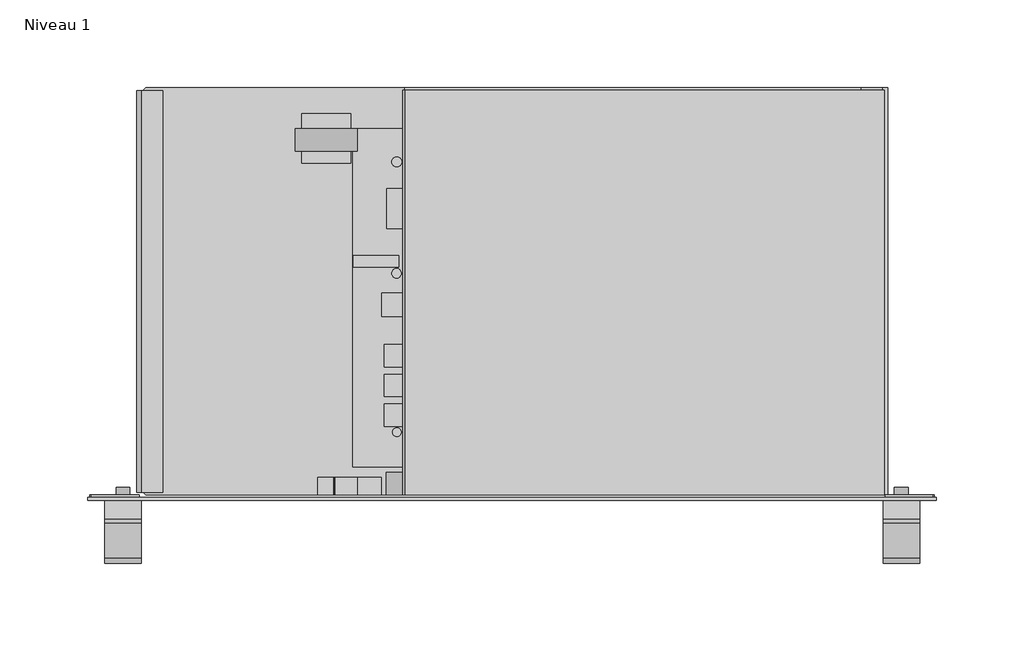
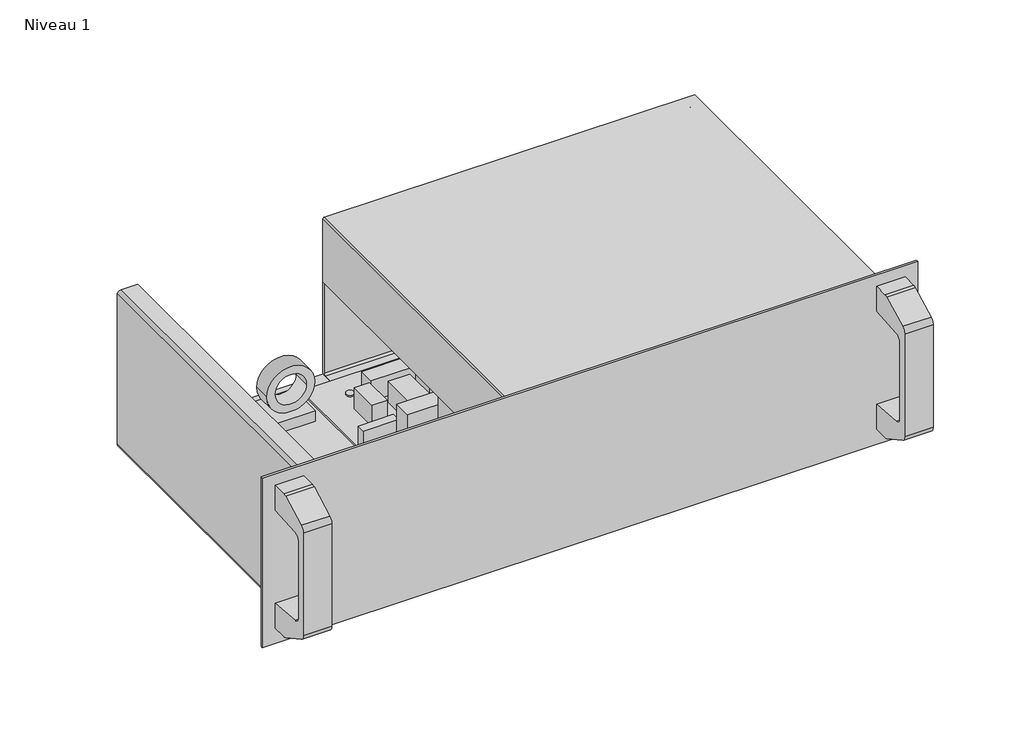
# One storey: 1 proxy.
"""IFC4 building model written with IfcOpenShell, lengths in millimetres."""

import ifcopenshell
import ifcopenshell.guid

model = None  # the IFC model being written
_history = None  # IfcOwnerHistory: only IFC2X3 demands one
_inside = {}  # id of a spatial element -> (the spatial element, [elements in it])
_under = {}  # id of a project, library or spatial element -> (it, [spatial elements below it])
_declared = {}  # id of a project -> (the project, [libraries it declares])
_typed = {}  # id of a type object -> (the type object, [elements of that type])
_made_of = {}  # id of a material, layer set ... -> (it, [elements and type objects made of it])


def new_model(schema):
    """Start an empty IFC model of exactly this schema.

    Asked for "IFC4X3", IfcOpenShell would pick the latest addendum, in which some entities
    have other attributes; the version numbers below select the first issue.
    IFC2X3 requires an IfcOwnerHistory on every rooted entity: one is made here for all.
    """
    global model, _history
    if schema == "IFC4X3":
        model = ifcopenshell.file(schema_version=(4, 3, 0, 0))
    else:
        model = ifcopenshell.file(schema=schema)
    _inside.clear()
    _under.clear()
    _declared.clear()
    _typed.clear()
    _made_of.clear()
    _history = None
    if model.schema == "IFC2X3":
        org = make("IfcOrganization", Name="unknown")
        user = make(
            "IfcPersonAndOrganization",
            ThePerson=make("IfcPerson", FamilyName="unknown"),
            TheOrganization=org,
        )
        app = make(
            "IfcApplication",
            ApplicationDeveloper=org,
            Version="unknown",
            ApplicationFullName="unknown",
            ApplicationIdentifier="unknown",
        )
        _history = make(
            "IfcOwnerHistory",
            OwningUser=user,
            OwningApplication=app,
            ChangeAction="ADDED",
            CreationDate=0,
        )
    return model


def make(cls, **values):
    """One entity of the class cls with the attributes given. An attribute that is None is left unset."""
    return model.create_entity(
        cls, **{name: value for name, value in values.items() if value is not None}
    )


def rooted(cls, **values):
    """An entity with a GlobalId (a new one), such as an element, a storey or a relation."""
    return make(cls, GlobalId=ifcopenshell.guid.new(), OwnerHistory=_history, **values)


def si_unit(unit_type, name, prefix=None):
    """IfcSIUnit, for example si_unit("LENGTHUNIT", "METRE", prefix="MILLI")."""
    return make("IfcSIUnit", UnitType=unit_type, Prefix=prefix, Name=name)


def assignment(units):
    """IfcUnitAssignment: the units of a project."""
    return None if units is None else make("IfcUnitAssignment", Units=units)


def point(xyz):
    """IfcCartesianPoint."""
    return None if xyz is None else make("IfcCartesianPoint", Coordinates=xyz)


def direction(xyz):
    """IfcDirection."""
    return None if xyz is None else make("IfcDirection", DirectionRatios=xyz)


def frame(location, z_axis=None, x_axis=None):
    """IfcAxis2Placement3D, a coordinate frame: its origin and axes. An axis left out is left unset."""
    return make(
        "IfcAxis2Placement3D",
        Location=point(location),
        Axis=direction(z_axis),
        RefDirection=direction(x_axis),
    )


def frame_2d(location, x_axis=None):
    """IfcAxis2Placement2D, a coordinate frame in the plane: its origin and x axis."""
    return make(
        "IfcAxis2Placement2D", Location=point(location), RefDirection=direction(x_axis)
    )


def origin():
    """The frame at (0, 0, 0) with its axes left unset."""
    return frame((0.0, 0.0, 0.0))


def place(relative_to, where):
    """IfcLocalPlacement: puts the frame where relative to a parent placement (None: the world)."""
    return make(
        "IfcLocalPlacement", PlacementRelTo=relative_to, RelativePlacement=where
    )


def context(
    kind, dimensions, precision=None, world=None, true_north=None, identifier=None
):
    """IfcGeometricRepresentationContext, for example the 3D "Model" context."""
    return make(
        "IfcGeometricRepresentationContext",
        ContextIdentifier=identifier,
        ContextType=kind,
        CoordinateSpaceDimension=dimensions,
        Precision=precision,
        WorldCoordinateSystem=world,
        TrueNorth=true_north,
    )


def project(units=None, contexts=None):
    """IfcProject with its units and contexts."""
    return rooted(
        "IfcProject",
        Name="project",
        RepresentationContexts=contexts,
        UnitsInContext=assignment(units),
    )


def spatial(cls, under=None, at=None, **own):
    """A site, building, storey or space (cls), placed at a placement, below another one or the project."""
    s = rooted(cls, ObjectPlacement=at, **own)
    if under is not None:
        _under.setdefault(under.id(), (under, []))[1].append(s)
    return s


def polyline(points):
    """IfcPolyline through the points."""
    return make("IfcPolyline", Points=[point(p) for p in points])


def circle_curve(where, radius):
    """IfcCircle in the frame where."""
    return make("IfcCircle", Position=where, Radius=radius)


def trimmed(basis, trim1, trim2, sense, master):
    """IfcTrimmedCurve: the piece of a basis curve between two trims."""
    return make(
        "IfcTrimmedCurve",
        BasisCurve=basis,
        Trim1=trim1,
        Trim2=trim2,
        SenseAgreement=sense,
        MasterRepresentation=master,
    )


def segment(curve, same_sense, transition):
    """IfcCompositeCurveSegment."""
    return make(
        "IfcCompositeCurveSegment",
        Transition=transition,
        SameSense=same_sense,
        ParentCurve=curve,
    )


def composite_curve(segments, self_intersect=None):
    """IfcCompositeCurve: segments joined end to end."""
    return make("IfcCompositeCurve", Segments=segments, SelfIntersect=self_intersect)


def outline(outer, holes=None, kind="AREA"):
    """IfcArbitraryClosedProfileDef: a profile drawn as a closed curve; with holes, ...WithVoids."""
    if holes is None:
        return make("IfcArbitraryClosedProfileDef", ProfileType=kind, OuterCurve=outer)
    return make(
        "IfcArbitraryProfileDefWithVoids",
        ProfileType=kind,
        OuterCurve=outer,
        InnerCurves=holes,
    )


def extrude(swept, where, along, depth):
    """IfcExtrudedAreaSolid: the profile swept, set in the frame where, extruded along a direction by depth."""
    return make(
        "IfcExtrudedAreaSolid",
        SweptArea=swept,
        Position=where,
        ExtrudedDirection=direction(along),
        Depth=depth,
    )


def shape(context_of_items, identifier, shape_type, items):
    """IfcShapeRepresentation: the items that make up one representation, for example the "Body"."""
    return make(
        "IfcShapeRepresentation",
        ContextOfItems=context_of_items,
        RepresentationIdentifier=identifier,
        RepresentationType=shape_type,
        Items=items,
    )


def source(mapping_origin, context_of_items, identifier, shape_type, items):
    """IfcRepresentationMap: a shape defined once, which mapped items show again and again."""
    return make(
        "IfcRepresentationMap",
        MappingOrigin=mapping_origin,
        MappedRepresentation=shape(context_of_items, identifier, shape_type, items),
    )


def transform(
    local_origin,
    x_axis=None,
    y_axis=None,
    z_axis=None,
    scale=None,
    scale2=None,
    scale3=None,
    uniform=True,
):
    """IfcCartesianTransformationOperator3D, or its non-uniform kind. x_axis, y_axis, z_axis: its Axis1, 2, 3."""
    if uniform:
        return make(
            "IfcCartesianTransformationOperator3D",
            Axis1=direction(x_axis),
            Axis2=direction(y_axis),
            LocalOrigin=point(local_origin),
            Scale=scale,
            Axis3=direction(z_axis),
        )
    return make(
        "IfcCartesianTransformationOperator3DnonUniform",
        Axis1=direction(x_axis),
        Axis2=direction(y_axis),
        LocalOrigin=point(local_origin),
        Scale=scale,
        Axis3=direction(z_axis),
        Scale2=scale2,
        Scale3=scale3,
    )


def mapped(mapping_source, mapping_target):
    """IfcMappedItem: shows the shape of a source again, moved by a transform."""
    return make(
        "IfcMappedItem", MappingSource=mapping_source, MappingTarget=mapping_target
    )


def made_of(thing, what):
    """Note that an element or type object is made of a material, layer set ...; save() writes the relation."""
    if what is not None:
        _made_of.setdefault(what.id(), (what, []))[1].append(thing)
    return thing


def element(
    cls,
    number,
    at=None,
    inside=None,
    cuts=None,
    type_object=None,
    material=None,
    context=None,
    identifier="Body",
    shape_type=None,
    held_by="IfcProductDefinitionShape",
    body=None,
    shapes=None,
    **own,
):
    """One element of the class cls, such as IfcWall. Its Tag is "e" and its number.

    at: its placement. inside: the storey or other place that contains it. cuts: it is an
    opening in that element (IfcRelVoidsElement). A single representation is given by context,
    identifier, shape_type and body (its items); several are given by shapes. held_by: the class
    of the entity that holds the representations. save() writes the other relations.
    """
    e = rooted(cls, Tag="e%d" % number, ObjectPlacement=at, **own)
    if body is not None:
        shapes = [shape(context, identifier, shape_type, body)]
    if shapes is not None:
        e.Representation = make(held_by, Representations=shapes)
    if inside is not None:
        _inside.setdefault(inside.id(), (inside, []))[1].append(e)
    if cuts is not None:
        rooted(
            "IfcRelVoidsElement", RelatingBuildingElement=cuts, RelatedOpeningElement=e
        )
    if type_object is not None:
        _typed.setdefault(type_object.id(), (type_object, []))[1].append(e)
    return made_of(e, material)


def aggregate(whole, parts):
    """IfcRelAggregates: a whole, such as a stair, and the parts it consists of."""
    return rooted("IfcRelAggregates", RelatingObject=whole, RelatedObjects=parts)


def save(model, path):
    """Write the relations noted so far, then the file.

    IfcRelAggregates (storeys below a building ...), IfcRelContainedInSpatialStructure (elements
    in a storey), IfcRelDefinesByType, IfcRelAssociatesMaterial and IfcRelDeclares: one each for
    every whole, place, type object, material and project.
    """
    for whole, parts in _under.values():
        aggregate(whole, parts)
    for where, things in _inside.values():
        rooted(
            "IfcRelContainedInSpatialStructure",
            RelatedElements=things,
            RelatingStructure=where,
        )
    for kind, things in _typed.values():
        rooted("IfcRelDefinesByType", RelatedObjects=things, RelatingType=kind)
    for what, things in _made_of.values():
        rooted("IfcRelAssociatesMaterial", RelatedObjects=things, RelatingMaterial=what)
    for by, libraries in _declared.values():
        rooted("IfcRelDeclares", RelatingContext=by, RelatedDefinitions=libraries)
    model.write(path)


def electrical_equipment_2903663d(model_context):
    return source(origin(), model_context, "Body", "SweptSolid", [
        extrude(outline(composite_curve([segment(trimmed(circle_curve(frame_2d((69.5120804, -40.3346366)), 17.6593111), [point((69.5120804, -22.6753256))], [point((69.5120804, -57.9939477))], False, "CARTESIAN"), True, "CONTINUOUS"), segment(trimmed(circle_curve(frame_2d((69.5120804, -40.3346366)), 17.6593111), [point((69.5120804, -57.9939477))], [point((69.5120804, -22.6753256))], False, "CARTESIAN"), True, "CONTINUOUS")], self_intersect=False), holes=[composite_curve([segment(trimmed(circle_curve(frame_2d((69.5120804, -40.3346366)), 11.5), [point((69.5120804, -28.8346366))], [point((69.5120804, -51.8346366))], True, "CARTESIAN"), True, "CONTINUOUS"), segment(trimmed(circle_curve(frame_2d((69.5120804, -40.3346366)), 11.5), [point((69.5120804, -51.8346366))], [point((69.5120804, -28.8346366))], True, "CARTESIAN"), True, "CONTINUOUS")], self_intersect=False)]), frame((0.0, -103.5804057, 0.0), z_axis=(0.0, 1.0, 0.0), x_axis=(0.0, 0.0, 1.0)), (0.0, 0.0, 1.0), 12.75),
        extrude(outline(composite_curve([segment(trimmed(circle_curve(frame_2d((85.5561483, -75.5633423)), 1.4726773), [point((85.4575, -74.0939727))], [point((84.4475, -74.5939727))], True, "CARTESIAN"), True, "CONTINUOUS"), segment(polyline([(84.4475, -74.5939727), (84.4475, -87.1739727)]), True, "CONTINUOUS"), segment(trimmed(circle_curve(frame_2d((85.0762624, -87.1739727)), 0.6287624), [point((84.4475, -87.1739727))], [point((85.4575, -87.6739727))], True, "CARTESIAN"), True, "CONTINUOUS"), segment(polyline([(85.4575, -87.6739727), (85.4575, -96.9439727), (43.4175, -96.9439727), (43.4175, -87.6739727), (44.4275, -87.1739727), (44.4275, -74.5939727), (43.4175, -74.0939727), (43.4175, -60.8939727), (85.4575, -60.8939727), (85.4575, -74.0939727)]), True, "CONTINUOUS")], self_intersect=False)), frame((0.0, -103.5804057, 0.0), z_axis=(0.0, 1.0, 0.0), x_axis=(0.0, 0.0, 1.0)), (0.0, 0.0, 1.0), 10.1),
        extrude(outline(composite_curve([segment(trimmed(circle_curve(frame_2d((111.0486852, -207.8805611)), 3.8825564), [point((111.0486852, -211.7631175))], [point((111.0486852, -203.9980047))], False, "CARTESIAN"), True, "CONTINUOUS"), segment(trimmed(circle_curve(frame_2d((111.0486852, -207.8805611)), 3.8825564), [point((111.0486852, -203.9980047))], [point((111.0486852, -211.7631175))], False, "CARTESIAN"), True, "CONTINUOUS")], self_intersect=False)), frame((0.0, -105.0804057, 0.0), z_axis=(0.0, 1.0, 0.0), x_axis=(0.0, 0.0, 1.0)), (0.0, 0.0, 1.0), 5.7),
        extrude(outline(composite_curve([segment(trimmed(circle_curve(frame_2d((111.0073968, 235.1983586)), 3.9056349), [point((111.0073968, 231.2927237))], [point((111.0073968, 239.1039935))], False, "CARTESIAN"), True, "CONTINUOUS"), segment(trimmed(circle_curve(frame_2d((111.0073968, 235.1983586)), 3.9056349), [point((111.0073968, 239.1039935))], [point((111.0073968, 231.2927237))], False, "CARTESIAN"), True, "CONTINUOUS")], self_intersect=False)), frame((0.0, -105.0804057, 0.0), z_axis=(0.0, 1.0, 0.0), x_axis=(0.0, 0.0, 1.0)), (0.0, 0.0, 1.0), 5.7),
        extrude(outline(composite_curve([segment(trimmed(circle_curve(frame_2d((18.5190475, 235.0400975)), 3.8287512), [point((18.5190475, 231.2113463))], [point((18.5190475, 238.8688488))], False, "CARTESIAN"), True, "CONTINUOUS"), segment(trimmed(circle_curve(frame_2d((18.5190475, 235.0400975)), 3.8287512), [point((18.5190475, 238.8688488))], [point((18.5190475, 231.2113463))], False, "CARTESIAN"), True, "CONTINUOUS")], self_intersect=False)), frame((0.0, -105.0804057, 0.0), z_axis=(0.0, 1.0, 0.0), x_axis=(0.0, 0.0, 1.0)), (0.0, 0.0, 1.0), 5.7),
        extrude(outline(composite_curve([segment(trimmed(circle_curve(frame_2d((18.5611817, -207.8813006)), 3.7501449), [point((18.5611817, -211.6314454))], [point((18.5611817, -204.1311557))], False, "CARTESIAN"), True, "CONTINUOUS"), segment(trimmed(circle_curve(frame_2d((18.5611817, -207.8813006)), 3.7501449), [point((18.5611817, -204.1311557))], [point((18.5611817, -211.6314454))], False, "CARTESIAN"), True, "CONTINUOUS")], self_intersect=False)), frame((0.0, -105.0804057, 0.0), z_axis=(0.0, 1.0, 0.0), x_axis=(0.0, 0.0, 1.0)), (0.0, 0.0, 1.0), 5.7),
        extrude(outline(composite_curve([segment(trimmed(circle_curve(frame_2d((-51.9851856, 86.1970682)), 2.8241029), [point((-54.8092885, 86.1970682))], [point((-49.1610827, 86.1970682))], False, "CARTESIAN"), True, "CONTINUOUS"), segment(trimmed(circle_curve(frame_2d((-51.9851856, 86.1970682)), 2.8241029), [point((-49.1610827, 86.1970682))], [point((-54.8092885, 86.1970682))], False, "CARTESIAN"), True, "CONTINUOUS")], self_intersect=False)), frame((0.0, 0.0, 6.0), z_axis=(0.0, 0.0, 1.0), x_axis=(1.0, 0.0, 0.0)), (0.0, 0.0, 1.0), 12.6),
        extrude(outline(composite_curve([segment(trimmed(circle_curve(frame_2d((-52.0963246, 22.7243521)), 2.7385816), [point((-54.8349062, 22.7243521))], [point((-49.357743, 22.7243521))], False, "CARTESIAN"), True, "CONTINUOUS"), segment(trimmed(circle_curve(frame_2d((-52.0963246, 22.7243521)), 2.7385816), [point((-49.357743, 22.7243521))], [point((-54.8349062, 22.7243521))], False, "CARTESIAN"), True, "CONTINUOUS")], self_intersect=False)), frame((0.0, 0.0, 6.0), z_axis=(0.0, 0.0, 1.0), x_axis=(1.0, 0.0, 0.0)), (0.0, 0.0, 1.0), 12.6),
        extrude(outline(composite_curve([segment(trimmed(circle_curve(frame_2d((-51.9263266, -67.7776614)), 2.4983309), [point((-54.4246575, -67.7776614))], [point((-49.4279958, -67.7776614))], False, "CARTESIAN"), True, "CONTINUOUS"), segment(trimmed(circle_curve(frame_2d((-51.9263266, -67.7776614)), 2.4983309), [point((-49.4279958, -67.7776614))], [point((-54.4246575, -67.7776614))], False, "CARTESIAN"), True, "CONTINUOUS")], self_intersect=False)), frame((0.0, 0.0, 6.0), z_axis=(0.0, 0.0, 1.0), x_axis=(1.0, 0.0, 0.0)), (0.0, 0.0, 1.0), 12.6),
        extrude(outline(composite_curve([segment(trimmed(circle_curve(frame_2d((145.3056812, -67.6231412)), 2.72988), [point((142.5758013, -67.6231412))], [point((148.0355612, -67.6231412))], False, "CARTESIAN"), True, "CONTINUOUS"), segment(trimmed(circle_curve(frame_2d((145.3056812, -67.6231412)), 2.72988), [point((148.0355612, -67.6231412))], [point((142.5758013, -67.6231412))], False, "CARTESIAN"), True, "CONTINUOUS")], self_intersect=False)), frame((0.0, 0.0, 6.0), z_axis=(0.0, 0.0, 1.0), x_axis=(1.0, 0.0, 0.0)), (0.0, 0.0, 1.0), 12.6),
        extrude(outline(composite_curve([segment(trimmed(circle_curve(frame_2d((145.3175625, 86.3095784)), 2.7108939), [point((142.6066685, 86.3095784))], [point((148.0284564, 86.3095784))], False, "CARTESIAN"), True, "CONTINUOUS"), segment(trimmed(circle_curve(frame_2d((145.3175625, 86.3095784)), 2.7108939), [point((148.0284564, 86.3095784))], [point((142.6066685, 86.3095784))], False, "CARTESIAN"), True, "CONTINUOUS")], self_intersect=False)), frame((0.0, 0.0, 6.0), z_axis=(0.0, 0.0, 1.0), x_axis=(1.0, 0.0, 0.0)), (0.0, 0.0, 1.0), 12.6),
        extrude(outline(composite_curve([segment(trimmed(circle_curve(frame_2d((85.5561483, -75.5633423)), 1.4726773), [point((85.4575, -74.0939727))], [point((84.4475, -74.5939727))], True, "CARTESIAN"), True, "CONTINUOUS"), segment(polyline([(84.4475, -74.5939727), (84.4475, -87.1739727)]), True, "CONTINUOUS"), segment(trimmed(circle_curve(frame_2d((85.0762624, -87.1739727)), 0.6287624), [point((84.4475, -87.1739727))], [point((85.4575, -87.6739727))], True, "CARTESIAN"), True, "CONTINUOUS"), segment(polyline([(85.4575, -87.6739727), (85.4575, -96.9439727), (43.4175, -96.9439727), (43.4175, -87.6739727), (44.4275, -87.1739727), (44.4275, -74.5939727), (43.4175, -74.0939727), (43.4175, -60.8939727), (85.4575, -60.8939727), (85.4575, -74.0939727)]), True, "CONTINUOUS")], self_intersect=False)), frame((0.0, -103.5804057, 0.0), z_axis=(0.0, 1.0, 0.0), x_axis=(0.0, 0.0, 1.0)), (0.0, 0.0, 1.0), 10.1),
        extrude(outline(polyline([(70.7205579, -37.8212855), (33.897325, -37.8212855), (33.897325, -55.4322057), (-8.0194421, -55.4322057), (-13.4690418, -55.4322057), (-13.4690418, -68.4918057), (-35.4844421, -68.4918057), (-35.4844421, -35.0322057), (-45.4844421, -35.0322057), (-45.4844421, -15.0322057), (70.7205579, -15.0322057), (70.7205579, -37.8212855)])), frame((0.0, 0.0, 17.6), z_axis=(0.0, 0.0, 1.0), x_axis=(1.0, 0.0, 0.0)), (0.0, 0.0, 1.0), 59.1044),
        extrude(outline(polyline([(141.6665579, 90.2073943), (141.6665579, -71.6922057), (41.6965579, -71.6922057), (41.6965579, -41.6922057), (76.6665579, -41.6922057), (76.6665579, 34.4073943), (-9.3334421, 34.4073943), (-9.3334421, 90.2073943), (141.6665579, 90.2073943)])), frame((0.0, 0.0, 61.0), z_axis=(0.0, 0.0, 1.0), x_axis=(1.0, 0.0, 0.0)), (0.0, 0.0, 1.0), 1.1),
        extrude(outline(polyline([(-60.5894421, 11.5677943), (46.5731579, 11.5677943), (46.5731579, -2.0237497), (-60.5894421, -2.0237497), (-60.5894421, 11.5677943)])), frame((0.0, 0.0, 17.6), z_axis=(0.0, 0.0, 1.0), x_axis=(1.0, 0.0, 0.0)), (0.0, 0.0, 1.0), 40.2),
        extrude(outline(polyline([(-21.2703727, -25.5856057), (7.7618273, -25.5856057), (7.7618273, -37.3966057), (-21.2703727, -37.3966057), (-21.2703727, -25.5856057)])), frame((0.0, 0.0, 16.0), z_axis=(0.0, 0.0, 1.0), x_axis=(1.0, 0.0, 0.0)), (0.0, 0.0, 1.0), 17.8),
        extrude(outline(polyline([(-21.2703727, -9.9646057), (7.3880344, -9.9646057), (7.3880344, -22.1300845), (-21.2703727, -22.1300845), (-21.2703727, -9.9646057)])), frame((0.0, 0.0, 16.0), z_axis=(0.0, 0.0, 1.0), x_axis=(1.0, 0.0, 0.0)), (0.0, 0.0, 1.0), 17.8),
        extrude(outline(polyline([(-21.0417727, -71.2294057), (-21.0417727, -42.1972057), (-9.2307727, -42.1972057), (-9.2307727, -71.2294057), (-21.0417727, -71.2294057)])), frame((0.0, 0.0, 16.0), z_axis=(0.0, 0.0, 1.0), x_axis=(1.0, 0.0, 0.0)), (0.0, 0.0, 1.0), 17.8),
        extrude(outline(polyline([(-50.8105727, 32.701795), (-50.8105727, 26.1933546), (-76.8963727, 26.1933546), (-76.8963727, 32.701795), (-50.8105727, 32.701795)])), frame((0.0, 0.0, 16.0), z_axis=(0.0, 0.0, 1.0), x_axis=(1.0, 0.0, 0.0)), (0.0, 0.0, 1.0), 17.8),
        extrude(outline(polyline([(-19.4037421, 66.0706943), (-19.4037421, 35.0706943), (-35.4037421, 35.0706943), (-35.4037421, 66.0706943), (-19.4037421, 66.0706943)])), frame((0.0, 0.0, 16.0), z_axis=(0.0, 0.0, 1.0), x_axis=(1.0, 0.0, 0.0)), (0.0, 0.0, 1.0), 17.8),
        extrude(outline(polyline([(-46.6696421, 70.9795943), (-46.6696421, 48.1195943), (-57.7694421, 48.1195943), (-57.7694421, 70.9795943), (-46.6696421, 70.9795943)])), frame((0.0, 0.0, 16.0), z_axis=(0.0, 0.0, 1.0), x_axis=(1.0, 0.0, 0.0)), (0.0, 0.0, 1.0), 17.8),
        extrude(outline(polyline([(-78.0726421, 113.6425951), (-78.0726421, 85.5525919), (-106.0811387, 85.5525919), (-106.0811387, 113.6425951), (-78.0726421, 113.6425951)])), frame((0.0, 0.0, 6.0), z_axis=(0.0, 0.0, 1.0), x_axis=(1.0, 0.0, 0.0)), (0.0, 0.0, 1.0), 8.094273),
        extrude(outline(composite_curve([segment(polyline([(129.0, 225.5526273), (129.0, -47.4473727)]), True, "CONTINUOUS"), segment(trimmed(circle_curve(frame_2d((128.0, -47.4473727)), 1.0), [point((129.0, -47.4473727))], [point((128.0, -48.4473727))], False, "CARTESIAN"), True, "CONTINUOUS"), segment(polyline([(128.0, -48.4473727), (79.0, -48.4473727), (79.0, -47.4473727), (128.0, -47.4473727), (128.0, 225.5526273), (129.0, 225.5526273)]), True, "CONTINUOUS")], self_intersect=False)), frame((0.0, -103.5804057, 0.0), z_axis=(0.0, 1.0, 0.0), x_axis=(0.0, 0.0, 1.0)), (0.0, 0.0, 1.0), 230.5),
        extrude(outline(composite_curve([segment(trimmed(circle_curve(frame_2d((36.1, 151.0880473)), 17.6593111), [point((36.1, 168.7473583))], [point((36.1, 133.4287362))], False, "CARTESIAN"), True, "CONTINUOUS"), segment(trimmed(circle_curve(frame_2d((36.1, 151.0880473)), 17.6593111), [point((36.1, 133.4287362))], [point((36.1, 168.7473583))], False, "CARTESIAN"), True, "CONTINUOUS")], self_intersect=False), holes=[composite_curve([segment(trimmed(circle_curve(frame_2d((36.1, 151.0880473)), 11.5), [point((36.1, 162.5880473))], [point((36.1, 139.5880473))], True, "CARTESIAN"), True, "CONTINUOUS"), segment(trimmed(circle_curve(frame_2d((36.1, 151.0880473)), 11.5), [point((36.1, 139.5880473))], [point((36.1, 162.5880473))], True, "CARTESIAN"), True, "CONTINUOUS")], self_intersect=False)]), frame((0.0, 39.6966943, 0.0), z_axis=(0.0, 1.0, 0.0), x_axis=(0.0, 0.0, 1.0)), (0.0, 0.0, 1.0), 18.0),
        extrude(outline(composite_curve([segment(trimmed(circle_curve(frame_2d((36.1, 76.9425516)), 17.0), [point((36.1, 93.9425516))], [point((36.1, 59.9425516))], False, "CARTESIAN"), True, "CONTINUOUS"), segment(trimmed(circle_curve(frame_2d((36.1, 76.9425516)), 17.0), [point((36.1, 59.9425516))], [point((36.1, 93.9425516))], False, "CARTESIAN"), True, "CONTINUOUS")], self_intersect=False), holes=[composite_curve([segment(trimmed(circle_curve(frame_2d((36.1, 76.9425516)), 11.5), [point((36.1, 88.4425516))], [point((36.1, 65.4425516))], True, "CARTESIAN"), True, "CONTINUOUS"), segment(trimmed(circle_curve(frame_2d((36.1, 76.9425516)), 11.5), [point((36.1, 65.4425516))], [point((36.1, 88.4425516))], True, "CARTESIAN"), True, "CONTINUOUS")], self_intersect=False)]), frame((0.0, -36.8549363, 0.0), z_axis=(0.0, 1.0, 0.0), x_axis=(0.0, 0.0, 1.0)), (0.0, 0.0, 1.0), 12.75),
        extrude(outline(composite_curve([segment(trimmed(circle_curve(frame_2d((36.1, 36.4625333)), 17.6593111), [point((36.1, 54.1218443))], [point((36.1, 18.8032222))], False, "CARTESIAN"), True, "CONTINUOUS"), segment(trimmed(circle_curve(frame_2d((36.1, 36.4625333)), 17.6593111), [point((36.1, 18.8032222))], [point((36.1, 54.1218443))], False, "CARTESIAN"), True, "CONTINUOUS")], self_intersect=False), holes=[composite_curve([segment(trimmed(circle_curve(frame_2d((36.1, 36.4625333)), 11.5), [point((36.1, 47.9625333))], [point((36.1, 24.9625333))], True, "CARTESIAN"), True, "CONTINUOUS"), segment(trimmed(circle_curve(frame_2d((36.1, 36.4625333)), 11.5), [point((36.1, 24.9625333))], [point((36.1, 47.9625333))], True, "CARTESIAN"), True, "CONTINUOUS")], self_intersect=False)]), frame((0.0, -36.8549363, 0.0), z_axis=(0.0, 1.0, 0.0), x_axis=(0.0, 0.0, 1.0)), (0.0, 0.0, 1.0), 12.75),
        extrude(outline(composite_curve([segment(trimmed(circle_curve(frame_2d((31.5628403, -92.0511196)), 17.6593111), [point((31.5628403, -74.3918086))], [point((31.5628403, -109.7104307))], False, "CARTESIAN"), True, "CONTINUOUS"), segment(trimmed(circle_curve(frame_2d((31.5628403, -92.0511196)), 17.6593111), [point((31.5628403, -109.7104307))], [point((31.5628403, -74.3918086))], False, "CARTESIAN"), True, "CONTINUOUS")], self_intersect=False), holes=[composite_curve([segment(trimmed(circle_curve(frame_2d((31.5628403, -92.0511196)), 11.5), [point((31.5628403, -80.5511196))], [point((31.5628403, -103.5511196))], True, "CARTESIAN"), True, "CONTINUOUS"), segment(trimmed(circle_curve(frame_2d((31.5628403, -92.0511196)), 11.5), [point((31.5628403, -103.5511196))], [point((31.5628403, -80.5511196))], True, "CARTESIAN"), True, "CONTINUOUS")], self_intersect=False)]), frame((0.0, 92.4195943, 0.0), z_axis=(0.0, 1.0, 0.0), x_axis=(0.0, 0.0, 1.0)), (0.0, 0.0, 1.0), 12.75),
        extrude(outline(polyline([(-46.6680154, -64.5077495), (-59.1664421, -64.5077495), (-59.1664421, -51.8036007), (-46.6680154, -51.8036007), (-46.6680154, -64.5077495)])), frame((0.0, 0.0, 17.6), z_axis=(0.0, 0.0, 1.0), x_axis=(1.0, 0.0, 0.0)), (0.0, 0.0, 1.0), 20.35),
        extrude(outline(polyline([(-46.6680154, -17.9712057), (-46.6680154, -30.6712057), (-59.1664421, -30.6712057), (-59.1664421, -17.9712057), (-46.6680154, -17.9712057)])), frame((0.0, 0.0, 17.6), z_axis=(0.0, 0.0, 1.0), x_axis=(1.0, 0.0, 0.0)), (0.0, 0.0, 1.0), 20.35),
        extrude(outline(polyline([(-48.3782372, -34.8622057), (-48.3782372, -47.5622057), (-59.1664421, -47.5622057), (-59.1664421, -34.8622057), (-48.3782372, -34.8622057)])), frame((0.0, 0.0, 17.6), z_axis=(0.0, 0.0, 1.0), x_axis=(1.0, 0.0, 0.0)), (0.0, 0.0, 1.0), 20.35),
        extrude(outline(polyline([(128.7611737, 64.1017943), (128.7611737, 38.0667943), (120.4730775, 38.0667943), (120.4730775, 64.1017943), (128.7611737, 64.1017943)])), frame((0.0, 0.0, 16.0), z_axis=(0.0, 0.0, 1.0), x_axis=(1.0, 0.0, 0.0)), (0.0, 0.0, 1.0), 17.8),
        extrude(outline(polyline([(171.7442273, -87.5616057), (-77.0233727, -87.5616057), (-77.0233727, 104.9957943), (171.7442273, 104.9957943), (171.7442273, -87.5616057)])), frame((0.0, 0.0, 16.0), z_axis=(0.0, 0.0, 1.0), x_axis=(1.0, 0.0, 0.0)), (0.0, 0.0, 1.0), 1.6),
        extrude(outline(polyline([(-44.7646421, 83.9589943), (-11.9224421, 83.9589943), (-11.9224421, 72.0683082), (-44.7646421, 72.0683082), (-44.7646421, 83.9589943)])), frame((0.0, 0.0, 16.0), z_axis=(0.0, 0.0, 1.0), x_axis=(1.0, 0.0, 0.0)), (0.0, 0.0, 1.0), 17.8),
        extrude(outline(polyline([(141.6665579, 90.2073943), (141.6665579, 60.5695943), (-8.3334421, 60.5695943), (-8.3334421, 90.2073943), (141.6665579, 90.2073943)])), frame((0.0, 0.0, 17.6), z_axis=(0.0, 0.0, 1.0), x_axis=(1.0, 0.0, 0.0)), (0.0, 0.0, 1.0), 43.4),
        extrude(outline(polyline([(41.6965579, -71.6922057), (41.6965579, -41.6922057), (76.6665579, -41.6922057), (141.6665579, -41.6922057), (141.6665579, -71.6922057), (41.6965579, -71.6922057)])), frame((0.0, 0.0, 17.6), z_axis=(0.0, 0.0, 1.0), x_axis=(1.0, 0.0, 0.0)), (0.0, 0.0, 1.0), 43.4),
        extrude(outline(composite_curve([segment(trimmed(circle_curve(frame_2d((102.3743586, 50.3664957)), 17.6348629), [point((84.7394956, 50.3664957))], [point((120.0092215, 50.3664957))], False, "CARTESIAN"), True, "CONTINUOUS"), segment(trimmed(circle_curve(frame_2d((102.3743586, 50.3664957)), 17.6348629), [point((120.0092215, 50.3664957))], [point((84.7394956, 50.3664957))], False, "CARTESIAN"), True, "CONTINUOUS")], self_intersect=False)), frame((0.0, 0.0, 17.6), z_axis=(0.0, 0.0, 1.0), x_axis=(1.0, 0.0, 0.0)), (0.0, 0.0, 1.0), 42.0),
        extrude(outline(composite_curve([segment(trimmed(circle_curve(frame_2d((66.596714, 50.2520288)), 17.6348629), [point((48.9618511, 50.2520288))], [point((84.231577, 50.2520288))], False, "CARTESIAN"), True, "CONTINUOUS"), segment(trimmed(circle_curve(frame_2d((66.596714, 50.2520288)), 17.6348629), [point((84.231577, 50.2520288))], [point((48.9618511, 50.2520288))], False, "CARTESIAN"), True, "CONTINUOUS")], self_intersect=False)), frame((0.0, 0.0, 17.6), z_axis=(0.0, 0.0, 1.0), x_axis=(1.0, 0.0, 0.0)), (0.0, 0.0, 1.0), 42.0),
        extrude(outline(composite_curve([segment(polyline([(125.4195943, 120.9021665), (118.4195943, 120.9021665), (113.4195943, 120.9021665), (113.4195943, 122.4021665), (118.4195943, 122.4021665), (125.4195943, 122.4021665)]), True, "CONTINUOUS"), segment(trimmed(circle_curve(frame_2d((125.4195943, 119.4021665)), 3.0), [point((125.4195943, 122.4021665))], [point((128.4195943, 119.4021665))], False, "CARTESIAN"), True, "CONTINUOUS"), segment(polyline([(128.4195943, 119.4021665), (128.4195943, 7.515625)]), True, "CONTINUOUS"), segment(trimmed(circle_curve(frame_2d((125.4195943, 7.515625)), 3.0), [point((128.4195943, 7.515625))], [point((125.4195943, 4.515625))], False, "CARTESIAN"), True, "CONTINUOUS"), segment(polyline([(125.4195943, 4.515625), (-103.5804057, 4.515625), (-103.5804057, 6.0), (125.4195943, 6.0)]), True, "CONTINUOUS"), segment(trimmed(circle_curve(frame_2d((125.4195943, 7.5)), 1.5), [point((125.4195943, 6.0))], [point((126.9195943, 7.5))], True, "CARTESIAN"), True, "CONTINUOUS"), segment(polyline([(126.9195943, 7.5), (126.9195943, 119.4021665)]), True, "CONTINUOUS"), segment(trimmed(circle_curve(frame_2d((125.4195943, 119.4021665)), 1.5), [point((126.9195943, 119.4021665))], [point((125.4195943, 120.9021665))], True, "CARTESIAN"), True, "CONTINUOUS")], self_intersect=False)), frame((-47.5481667, 0.0, 0.0), z_axis=(1.0, 0.0, 0.0), x_axis=(0.0, 1.0, 0.0)), (0.0, 0.0, 1.0), 270.4),
        extrude(outline(polyline([(222.5526273, -103.5804057), (-194.8473727, -103.5804057), (-196.8473727, -101.5804057), (-196.8026476, 126.4643194), (-194.8473727, 128.4195943), (-45.8473727, 128.4195943), (-45.8473727, 125.4195943), (224.5526273, 125.4195943), (224.5526273, -101.5804057), (222.5526273, -103.5804057)])), frame((0.0, 0.0, 4.5), z_axis=(0.0, 0.0, 1.0), x_axis=(1.0, 0.0, 0.0)), (0.0, 0.0, 1.0), 1.5),
        extrude(outline(polyline([(126.5, 253.3526273), (126.5, 226.0526273), (125.2589841, 226.0526273), (6.0, 226.0526273), (6.0, 253.3526273), (6.7747307, 254.1273579), (125.7252693, 254.1273579), (126.5, 253.3526273)])), frame((0.0, -105.0804057, 0.0), z_axis=(0.0, 1.0, 0.0), x_axis=(0.0, 0.0, 1.0)), (0.0, 0.0, 1.0), 1.5),
        extrude(outline(polyline([(126.5, -225.8726895), (125.5, -226.8726421), (7.0, -226.8726421), (6.0, -225.8726895), (6.0, -198.5574135), (126.5, -198.5574135), (126.5, -225.8726895)])), frame((0.0, -105.0804057, 0.0), z_axis=(0.0, 1.0, 0.0), x_axis=(0.0, 0.0, 1.0)), (0.0, 0.0, 1.0), 1.5),
        extrude(outline(composite_curve([segment(polyline([(123.4890082, -185.0726421), (125.0393288, -185.0726421), (125.0393288, -197.2527257)]), True, "CONTINUOUS"), segment(trimmed(circle_curve(frame_2d((122.0270938, -197.2527257)), 3.012235), [point((125.0393288, -197.2527257))], [point((123.1258595, -200.0574135))], False, "CARTESIAN"), True, "CONTINUOUS"), segment(polyline([(123.1258595, -200.0574135), (6.0, -200.0574135)]), True, "CONTINUOUS"), segment(trimmed(circle_curve(frame_2d((6.0, -197.0574135)), 3.0), [point((6.0, -200.0574135))], [point((3.0, -197.0574135))], False, "CARTESIAN"), True, "CONTINUOUS"), segment(polyline([(3.0, -197.0574135), (3.0, -181.6408834), (4.4375, -181.6408834), (4.4375, -197.0574135)]), True, "CONTINUOUS"), segment(trimmed(circle_curve(frame_2d((6.2375, -196.7274135)), 1.83), [point((4.4375, -197.0574135))], [point((6.2375, -198.5574135))], True, "CARTESIAN"), True, "CONTINUOUS"), segment(polyline([(6.2375, -198.5574135), (122.6992653, -198.5574135)]), True, "CONTINUOUS"), segment(trimmed(circle_curve(frame_2d((121.9619849, -197.2201709)), 1.5270233), [point((122.6992653, -198.5574135))], [point((123.4890082, -197.2201709))], True, "CARTESIAN"), True, "CONTINUOUS"), segment(polyline([(123.4890082, -197.2201709), (123.4890082, -185.0726421)]), True, "CONTINUOUS")], self_intersect=False)), frame((0.0, -102.0804057, 0.0), z_axis=(0.0, 1.0, 0.0), x_axis=(0.0, 0.0, 1.0)), (0.0, 0.0, 1.0), 228.9426557),
        extrude(outline(composite_curve([segment(polyline([(124.9375, 212.5526273), (124.9375, 224.5526273)]), True, "CONTINUOUS"), segment(trimmed(circle_curve(frame_2d((123.4104767, 224.5526273)), 1.5270233), [point((124.9375, 224.5526273))], [point((123.6964841, 226.0526273))], True, "CARTESIAN"), True, "CONTINUOUS"), segment(polyline([(123.6964841, 226.0526273), (6.2375, 226.0526273)]), True, "CONTINUOUS"), segment(trimmed(circle_curve(frame_2d((6.2375, 224.2226273)), 1.83), [point((6.2375, 226.0526273))], [point((4.4375, 224.5526273))], True, "CARTESIAN"), True, "CONTINUOUS"), segment(polyline([(4.4375, 224.5526273), (4.4375, 212.5526273), (2.9375, 212.5526273), (2.9375, 224.5526273)]), True, "CONTINUOUS"), segment(trimmed(circle_curve(frame_2d((5.9375, 224.5526273)), 3.0), [point((2.9375, 224.5526273))], [point((5.9375, 227.5526273))], False, "CARTESIAN"), True, "CONTINUOUS"), segment(polyline([(5.9375, 227.5526273), (123.6964841, 227.5526273)]), True, "CONTINUOUS"), segment(trimmed(circle_curve(frame_2d((123.425265, 224.5526273)), 3.012235), [point((123.6964841, 227.5526273))], [point((126.4375, 224.5526273))], False, "CARTESIAN"), True, "CONTINUOUS"), segment(polyline([(126.4375, 224.5526273), (126.4375, 212.5526273), (124.9375, 212.5526273)]), True, "CONTINUOUS")], self_intersect=False)), frame((0.0, -103.5804057, 0.0), z_axis=(0.0, 1.0, 0.0), x_axis=(0.0, 0.0, 1.0)), (0.0, 0.0, 1.0), 232.0),
        extrude(outline(composite_curve([segment(polyline([(-117.331115, 121.6370201), (-106.5804057, 121.6370201), (-106.5804057, 102.1370201), (-131.8561096, 100.3695707)]), True, "CONTINUOUS"), segment(trimmed(circle_curve(frame_2d((-131.5073272, 95.3817505)), 5.0), [point((-131.8561096, 100.3695707))], [point((-136.5073272, 95.3817505))], True, "CARTESIAN"), True, "CONTINUOUS"), segment(polyline([(-136.5073272, 95.3817505), (-136.5073272, 36.4932495)]), True, "CONTINUOUS"), segment(trimmed(circle_curve(frame_2d((-131.5073272, 36.4932495)), 5.0), [point((-136.5073272, 36.4932495))], [point((-131.8561096, 31.5054293))], True, "CARTESIAN"), True, "CONTINUOUS"), segment(polyline([(-131.8561096, 31.5054293), (-106.5804057, 29.7379799), (-106.5804057, 10.2379799), (-117.331115, 10.2379799)]), True, "CONTINUOUS"), segment(trimmed(circle_curve(frame_2d((-117.331115, 15.2379799)), 5.0), [point((-117.331115, 10.2379799))], [point((-119.682878, 10.825587))], False, "CARTESIAN"), True, "CONTINUOUS"), segment(polyline([(-119.682878, 10.825587), (-139.7590902, 21.5260151)]), True, "CONTINUOUS"), segment(trimmed(circle_curve(frame_2d((-137.4073272, 25.938408)), 5.0), [point((-139.7590902, 21.5260151))], [point((-142.4073272, 25.938408))], False, "CARTESIAN"), True, "CONTINUOUS"), segment(polyline([(-142.4073272, 25.938408), (-142.4073272, 105.936592)]), True, "CONTINUOUS"), segment(trimmed(circle_curve(frame_2d((-137.4073272, 105.936592)), 5.0), [point((-142.4073272, 105.936592))], [point((-139.7590902, 110.3489849))], False, "CARTESIAN"), True, "CONTINUOUS"), segment(polyline([(-139.7590902, 110.3489849), (-119.682878, 121.049413)]), True, "CONTINUOUS"), segment(trimmed(circle_curve(frame_2d((-117.331115, 116.6370201)), 5.0), [point((-119.682878, 121.049413))], [point((-117.331115, 121.6370201))], False, "CARTESIAN"), True, "CONTINUOUS")], self_intersect=False)), frame((224.8526273, 0.0, 0.0), z_axis=(1.0, 0.0, 0.0), x_axis=(0.0, 1.0, 0.0)), (0.0, 0.0, 1.0), 21.0),
        extrude(outline(composite_curve([segment(polyline([(-117.331115, 121.7151451), (-106.5804057, 121.7151451), (-106.5804057, 102.2151451), (-131.8561096, 100.4476957)]), True, "CONTINUOUS"), segment(trimmed(circle_curve(frame_2d((-131.5073272, 95.4598755)), 5.0), [point((-131.8561096, 100.4476957))], [point((-136.5073272, 95.4598755))], True, "CARTESIAN"), True, "CONTINUOUS"), segment(polyline([(-136.5073272, 95.4598755), (-136.5073272, 36.5713745)]), True, "CONTINUOUS"), segment(trimmed(circle_curve(frame_2d((-131.5073272, 36.5713745)), 5.0), [point((-136.5073272, 36.5713745))], [point((-131.8561096, 31.5835543))], True, "CARTESIAN"), True, "CONTINUOUS"), segment(polyline([(-131.8561096, 31.5835543), (-106.5804057, 29.8161049), (-106.5804057, 10.3161049), (-117.331115, 10.3161049)]), True, "CONTINUOUS"), segment(trimmed(circle_curve(frame_2d((-117.331115, 15.3161049)), 5.0), [point((-117.331115, 10.3161049))], [point((-119.682878, 10.903712))], False, "CARTESIAN"), True, "CONTINUOUS"), segment(polyline([(-119.682878, 10.903712), (-139.7590902, 21.6041401)]), True, "CONTINUOUS"), segment(trimmed(circle_curve(frame_2d((-137.4073272, 26.016533)), 5.0), [point((-139.7590902, 21.6041401))], [point((-142.4073272, 26.016533))], False, "CARTESIAN"), True, "CONTINUOUS"), segment(polyline([(-142.4073272, 26.016533), (-142.4073272, 106.014717)]), True, "CONTINUOUS"), segment(trimmed(circle_curve(frame_2d((-137.4073272, 106.014717)), 5.0), [point((-142.4073272, 106.014717))], [point((-139.7590902, 110.4271099))], False, "CARTESIAN"), True, "CONTINUOUS"), segment(polyline([(-139.7590902, 110.4271099), (-119.682878, 121.127538)]), True, "CONTINUOUS"), segment(trimmed(circle_curve(frame_2d((-117.331115, 116.7151451)), 5.0), [point((-119.682878, 121.127538))], [point((-117.331115, 121.7151451))], False, "CARTESIAN"), True, "CONTINUOUS")], self_intersect=False)), frame((-218.3726421, 0.0, 0.0), z_axis=(1.0, 0.0, 0.0), x_axis=(0.0, 1.0, 0.0)), (0.0, 0.0, 1.0), 21.0),
        extrude(outline(polyline([(255.1273579, -105.0804057), (255.1273579, -106.5804057), (-227.8726421, -106.5804057), (-227.8726421, -105.0804057), (255.1273579, -105.0804057)])), frame((0.0, 0.0, -1.5), z_axis=(0.0, 0.0, 1.0), x_axis=(1.0, 0.0, 0.0)), (0.0, 0.0, 1.0), 132.0),
    ])


model = new_model("IFC4")

# Units and contexts
model_context = context("Model", 3, world=origin())
ifc_project = project(units=[si_unit("LENGTHUNIT", "METRE", prefix="MILLI")], contexts=[model_context])

# Site, building, storey
site = spatial("IfcSite", under=ifc_project)
building = spatial("IfcBuilding", under=site)
storey = spatial("IfcBuildingStorey", under=building, Name="Niveau 1", Elevation=0.0)

# Proxy
placement = place(None, origin())
electrical_equipment_shape = electrical_equipment_2903663d(model_context)
element("IfcBuildingElementProxy", 1, Name="EV 24V 8A RACK : EV 24V 8A RACK", ObjectType="EV 24V 8A RACK : EV 24V 8A RACK", at=placement, inside=storey, context=model_context, shape_type="MappedRepresentation", body=[
    mapped(electrical_equipment_shape, transform((-6188.5177558, 6937.2022092, 0.0), x_axis=(1.0, 0.0, 0.0), y_axis=(0.0, 1.0, 0.0), z_axis=(0.0, 0.0, 1.0))),
])

save(model, "model.ifc")
